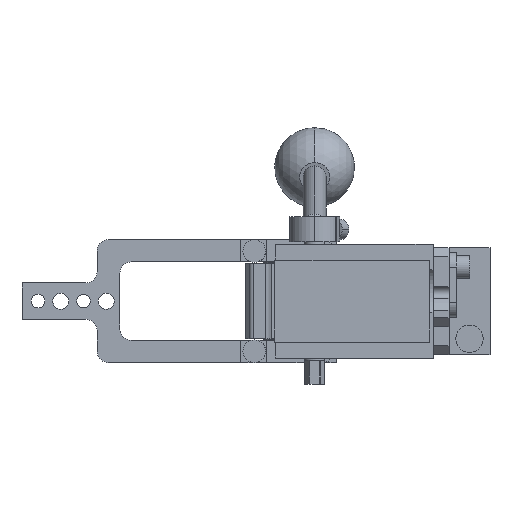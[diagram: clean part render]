
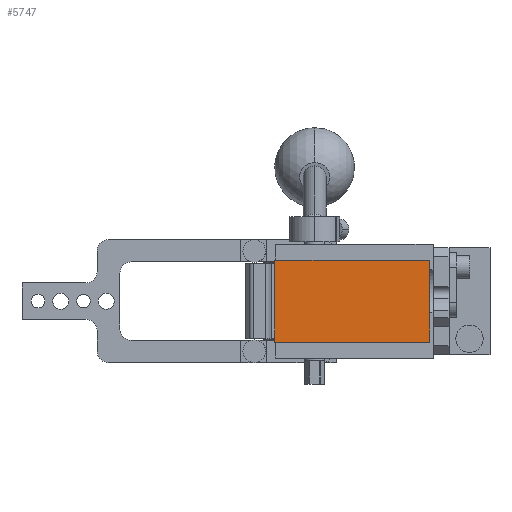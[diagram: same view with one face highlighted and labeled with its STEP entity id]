
A CAD part, front view. The second image highlights one B-rep face of the part: STEP entity #5747.
In plain terms, the highlighted planar face has unit normal (0, -1, 0).
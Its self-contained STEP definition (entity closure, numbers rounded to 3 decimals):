
#247 = CARTESIAN_POINT ( 'NONE',  ( 62., -233., 18. ) ) ;
#892 = LINE ( 'NONE', #10467, #4531 ) ;
#1463 = EDGE_CURVE ( 'NONE', #9140, #4541, #3837, .T. ) ;
#3837 = LINE ( 'NONE', #247, #7945 ) ;
#4086 = EDGE_CURVE ( 'NONE', #5863, #13247, #892, .T. ) ;
#4531 = VECTOR ( 'NONE', #9594, 1000. ) ;
#4541 = VERTEX_POINT ( 'NONE', #12470 ) ;
#5017 = DIRECTION ( 'NONE',  ( 0., 0., 1. ) ) ;
#5134 = LINE ( 'NONE', #8925, #15633 ) ;
#5747 = ADVANCED_FACE ( 'NONE', ( #14317 ), #8250, .T. ) ;
#5863 = VERTEX_POINT ( 'NONE', #15457 ) ;
#6032 = CARTESIAN_POINT ( 'NONE',  ( -6., -233., 18. ) ) ;
#6425 = VECTOR ( 'NONE', #13254, 1000. ) ;
#6454 = DIRECTION ( 'NONE',  ( 1., 0., 0. ) ) ;
#7883 = EDGE_CURVE ( 'NONE', #13247, #9140, #5134, .T. ) ;
#7945 = VECTOR ( 'NONE', #5017, 1000. ) ;
#8066 = ORIENTED_EDGE ( 'NONE', *, *, #1463, .T. ) ;
#8250 = PLANE ( 'NONE',  #15268 ) ;
#8624 = ORIENTED_EDGE ( 'NONE', *, *, #9255, .T. ) ;
#8925 = CARTESIAN_POINT ( 'NONE',  ( -6., -233., -18. ) ) ;
#9140 = VERTEX_POINT ( 'NONE', #11676 ) ;
#9255 = EDGE_CURVE ( 'NONE', #4541, #5863, #11981, .T. ) ;
#9300 = CARTESIAN_POINT ( 'NONE',  ( 0., -233., 0. ) ) ;
#9594 = DIRECTION ( 'NONE',  ( 0., 0., -1. ) ) ;
#9958 = ORIENTED_EDGE ( 'NONE', *, *, #7883, .T. ) ;
#10467 = CARTESIAN_POINT ( 'NONE',  ( -6., -233., 18. ) ) ;
#11676 = CARTESIAN_POINT ( 'NONE',  ( 62., -233., -18. ) ) ;
#11981 = LINE ( 'NONE', #6032, #6425 ) ;
#12385 = EDGE_LOOP ( 'NONE', ( #13847, #9958, #8066, #8624 ) ) ;
#12470 = CARTESIAN_POINT ( 'NONE',  ( 62., -233., 18. ) ) ;
#13247 = VERTEX_POINT ( 'NONE', #14719 ) ;
#13254 = DIRECTION ( 'NONE',  ( -1., 0., 0. ) ) ;
#13847 = ORIENTED_EDGE ( 'NONE', *, *, #4086, .T. ) ;
#14087 = DIRECTION ( 'NONE',  ( 0., 0., -1. ) ) ;
#14161 = DIRECTION ( 'NONE',  ( 0., -1., 0. ) ) ;
#14317 = FACE_OUTER_BOUND ( 'NONE', #12385, .T. ) ;
#14719 = CARTESIAN_POINT ( 'NONE',  ( -6., -233., -18. ) ) ;
#15268 = AXIS2_PLACEMENT_3D ( 'NONE', #9300, #14161, #14087 ) ;
#15457 = CARTESIAN_POINT ( 'NONE',  ( -6., -233., 18. ) ) ;
#15633 = VECTOR ( 'NONE', #6454, 1000. ) ;
